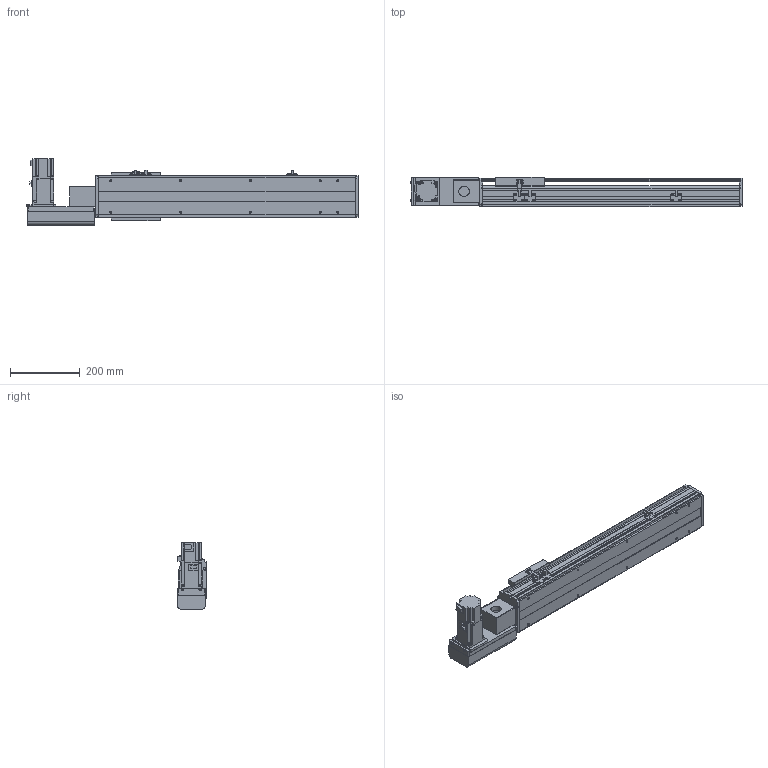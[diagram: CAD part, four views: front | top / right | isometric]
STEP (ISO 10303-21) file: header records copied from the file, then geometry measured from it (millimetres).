
FILE_DESCRIPTION(/* description */ ('STEP AP214'),/* implementation_level */ '2;1');
FILE_NAME(/* name */ 'PBS120-P40-S450-L-T40-C1-N(0)',/* time_stamp */ '2022-06-05T02:24:19+02:00',/* author */ ('License CC BY-ND 4.0'),/* organization */ ('CADENAS'),/* preprocessor_version */ 'ST-DEVELOPER v18.102',/* originating_system */ 'PARTsolutions',/* authorisation */ ' ');
FILE_SCHEMA (('AUTOMOTIVE_DESIGN {1 0 10303 214 3 1 1}'));
Length unit declared in the file: millimetre
Products named in the file (7): PBS120-P40-S450-L-T40-C1-N(0); PBS120_sensor; PBS120_plant; PBS120_sliser; T40-p1; PBS120T-L_motors; PBS120-S450()_body
Assembly tree (8 placements, depth 2):
  PBS120-P40-S450-L-T40-C1-N(0)
    PBS120_sensor  x3
    PBS120_plant
    PBS120_sliser
    T40-p1
    PBS120T-L_motors
    PBS120-S450()_body
Bounding box: 951 x 83 x 189.7 mm (x, y, z)
Volume: 4170861.4 mm3; surface area: 768913.6 mm2
Topology: 8 solids, 8 shells, 810 faces, 2126 edges, 1369 vertices
Faces by surface type: plane 543, cylinder 223, cone 42, torus 2
Full cylindrical faces by diameter (mm): 2.459 x6, 3.242 x4, 4 x2, 4.134 x4, 4.5 x10, 4.917 x14, 5.5 x11, 6 x2, 6.6 x1, 7 x2, 8.5 x4, 9 x4, 12 x1, 14 x1, 30 x2, 40 x1, 50 x2
Entity records: 21234 total; most frequent: DIRECTION 3668, CARTESIAN_POINT 3623, ORIENTED_EDGE 3466, EDGE_CURVE 1733, LINE 1228, VECTOR 1228, AXIS2_PLACEMENT_3D 1220, VERTEX_POINT 1175
